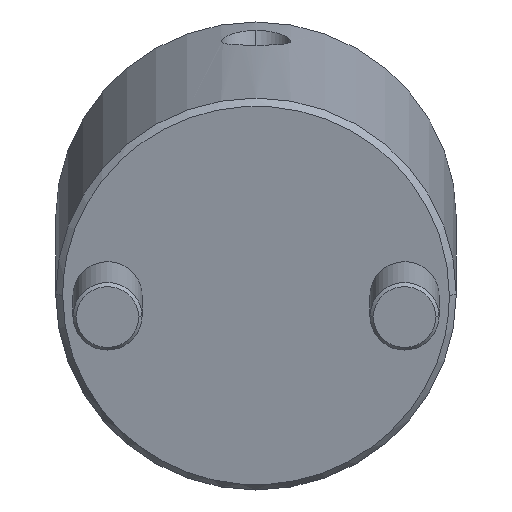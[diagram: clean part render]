
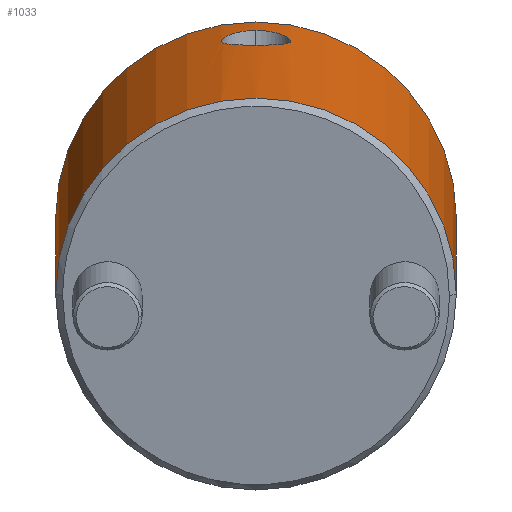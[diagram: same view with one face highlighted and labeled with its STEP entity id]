
A CAD part, front view. The second image highlights one B-rep face of the part: STEP entity #1033.
In plain terms, the highlighted cylindrical face has radius 29 mm (diameter 58 mm), a partial arc.
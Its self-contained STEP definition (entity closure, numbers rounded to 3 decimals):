
#772=CARTESIAN_POINT('Vertex',(0.,29.,1.)) ;
#775=CARTESIAN_POINT('Axis2P3D Location',(0.,0.,1.)) ;
#779=CARTESIAN_POINT('Vertex',(0.,-29.,1.)) ;
#931=CARTESIAN_POINT('Axis2P3D Location',(0.,0.,-2.75)) ;
#936=CARTESIAN_POINT('Line Origine',(0.,29.,-2.75)) ;
#940=CARTESIAN_POINT('Vertex',(0.,29.,54.)) ;
#943=CARTESIAN_POINT('Axis2P3D Location',(0.,0.,54.)) ;
#947=CARTESIAN_POINT('Vertex',(0.,-29.,54.)) ;
#950=CARTESIAN_POINT('Line Origine',(0.,-29.,-2.75)) ;
#962=CARTESIAN_POINT('Control Point',(29.,0.,48.127)) ;
#963=CARTESIAN_POINT('Control Point',(29.,0.424,48.127)) ;
#964=CARTESIAN_POINT('Control Point',(28.992,0.845,48.08)) ;
#965=CARTESIAN_POINT('Control Point',(28.977,1.265,47.984)) ;
#966=CARTESIAN_POINT('Control Point',(28.943,1.873,47.773)) ;
#967=CARTESIAN_POINT('Control Point',(28.898,2.443,47.461)) ;
#968=CARTESIAN_POINT('Control Point',(28.881,2.629,47.346)) ;
#969=CARTESIAN_POINT('Control Point',(28.847,2.99,47.095)) ;
#970=CARTESIAN_POINT('Control Point',(28.81,3.323,46.804)) ;
#971=CARTESIAN_POINT('Control Point',(28.791,3.482,46.649)) ;
#972=CARTESIAN_POINT('Control Point',(28.714,4.093,45.987)) ;
#973=CARTESIAN_POINT('Control Point',(28.642,4.556,45.204)) ;
#974=CARTESIAN_POINT('Control Point',(28.6,4.804,44.567)) ;
#975=CARTESIAN_POINT('Control Point',(28.557,5.048,43.461)) ;
#976=CARTESIAN_POINT('Control Point',(28.566,4.997,42.347)) ;
#977=CARTESIAN_POINT('Control Point',(28.578,4.929,41.907)) ;
#978=CARTESIAN_POINT('Control Point',(28.618,4.701,41.057)) ;
#979=CARTESIAN_POINT('Control Point',(28.681,4.297,40.277)) ;
#980=CARTESIAN_POINT('Control Point',(28.717,4.054,39.914)) ;
#981=CARTESIAN_POINT('Control Point',(28.774,3.632,39.412)) ;
#982=CARTESIAN_POINT('Control Point',(28.831,3.136,38.988)) ;
#983=CARTESIAN_POINT('Control Point',(28.849,2.962,38.856)) ;
#984=CARTESIAN_POINT('Control Point',(28.893,2.511,38.55)) ;
#985=CARTESIAN_POINT('Control Point',(28.932,2.021,38.307)) ;
#986=CARTESIAN_POINT('Control Point',(28.952,1.717,38.186)) ;
#987=CARTESIAN_POINT('Control Point',(28.979,1.192,38.026)) ;
#988=CARTESIAN_POINT('Control Point',(28.994,0.653,37.938)) ;
#989=CARTESIAN_POINT('Control Point',(28.998,0.437,37.915)) ;
#990=CARTESIAN_POINT('Control Point',(29.,0.219,37.903)) ;
#991=CARTESIAN_POINT('Control Point',(29.,0.,37.903)) ;
#992=CARTESIAN_POINT('Vertex',(29.,0.,48.127)) ;
#994=CARTESIAN_POINT('Vertex',(29.,0.,37.903)) ;
#998=CARTESIAN_POINT('Control Point',(29.,0.,37.903)) ;
#999=CARTESIAN_POINT('Control Point',(29.,-0.219,37.903)) ;
#1000=CARTESIAN_POINT('Control Point',(28.998,-0.438,37.915)) ;
#1001=CARTESIAN_POINT('Control Point',(28.994,-0.655,37.939)) ;
#1002=CARTESIAN_POINT('Control Point',(28.979,-1.195,38.027)) ;
#1003=CARTESIAN_POINT('Control Point',(28.952,-1.72,38.187)) ;
#1004=CARTESIAN_POINT('Control Point',(28.932,-2.024,38.308)) ;
#1005=CARTESIAN_POINT('Control Point',(28.893,-2.514,38.551)) ;
#1006=CARTESIAN_POINT('Control Point',(28.849,-2.965,38.858)) ;
#1007=CARTESIAN_POINT('Control Point',(28.83,-3.138,38.99)) ;
#1008=CARTESIAN_POINT('Control Point',(28.774,-3.634,39.414)) ;
#1009=CARTESIAN_POINT('Control Point',(28.717,-4.056,39.917)) ;
#1010=CARTESIAN_POINT('Control Point',(28.681,-4.298,40.28)) ;
#1011=CARTESIAN_POINT('Control Point',(28.617,-4.703,41.06)) ;
#1012=CARTESIAN_POINT('Control Point',(28.578,-4.93,41.91)) ;
#1013=CARTESIAN_POINT('Control Point',(28.566,-4.997,42.351)) ;
#1014=CARTESIAN_POINT('Control Point',(28.557,-5.048,43.464)) ;
#1015=CARTESIAN_POINT('Control Point',(28.6,-4.803,44.57)) ;
#1016=CARTESIAN_POINT('Control Point',(28.643,-4.555,45.207)) ;
#1017=CARTESIAN_POINT('Control Point',(28.714,-4.091,45.99)) ;
#1018=CARTESIAN_POINT('Control Point',(28.791,-3.479,46.652)) ;
#1019=CARTESIAN_POINT('Control Point',(28.81,-3.321,46.806)) ;
#1020=CARTESIAN_POINT('Control Point',(28.847,-2.987,47.096)) ;
#1021=CARTESIAN_POINT('Control Point',(28.882,-2.627,47.348)) ;
#1022=CARTESIAN_POINT('Control Point',(28.898,-2.44,47.463)) ;
#1023=CARTESIAN_POINT('Control Point',(28.943,-1.871,47.774)) ;
#1024=CARTESIAN_POINT('Control Point',(28.977,-1.263,47.985)) ;
#1025=CARTESIAN_POINT('Control Point',(28.992,-0.844,48.08)) ;
#1026=CARTESIAN_POINT('Control Point',(29.,-0.423,48.127)) ;
#1027=CARTESIAN_POINT('Control Point',(29.,0.,48.127)) ;
#776=DIRECTION('Axis2P3D Direction',(0.,0.,1.)) ;
#932=DIRECTION('Axis2P3D Direction',(0.,-0.,1.)) ;
#933=DIRECTION('Axis2P3D XDirection',(0.,-1.,0.)) ;
#937=DIRECTION('Vector Direction',(0.,0.,1.)) ;
#944=DIRECTION('Axis2P3D Direction',(0.,-0.,1.)) ;
#951=DIRECTION('Vector Direction',(0.,0.,1.)) ;
#777=AXIS2_PLACEMENT_3D('Circle Axis2P3D',#775,#776,$) ;
#934=AXIS2_PLACEMENT_3D('Cylinder Axis2P3D',#931,#932,#933) ;
#945=AXIS2_PLACEMENT_3D('Circle Axis2P3D',#943,#944,$) ;
#956=ORIENTED_EDGE('',*,*,#942,.F.) ;
#957=ORIENTED_EDGE('',*,*,#949,.T.) ;
#958=ORIENTED_EDGE('',*,*,#954,.T.) ;
#959=ORIENTED_EDGE('',*,*,#781,.F.) ;
#1030=ORIENTED_EDGE('',*,*,#996,.T.) ;
#1031=ORIENTED_EDGE('',*,*,#1028,.T.) ;
#1032=FACE_BOUND('',#1029,.T.) ;
#938=VECTOR('Line Direction',#937,1.) ;
#952=VECTOR('Line Direction',#951,1.) ;
#1033=ADVANCED_FACE('MANIFOLD_SOLID_BREP #1144',(#960,#1032),#935,.T.) ;
#961=B_SPLINE_CURVE_WITH_KNOTS('',5,(#962,#963,#964,#965,#966,#967,#968,#969,#970,#971,#972,#973,#974,#975,#976,#977,#978,#979,#980,#981,#982,#983,#984,#985,#986,#987,#988,#989,#990,#991),.UNSPECIFIED.,.F.,.U.,(6,3,3,3,3,3,3,3,3,6),(0.,3.069,4.614,6.171,10.888,13.996,17.094,18.642,20.97,22.519),.UNSPECIFIED.) ;
#997=B_SPLINE_CURVE_WITH_KNOTS('',5,(#998,#999,#1000,#1001,#1002,#1003,#1004,#1005,#1006,#1007,#1008,#1009,#1010,#1011,#1012,#1013,#1014,#1015,#1016,#1017,#1018,#1019,#1020,#1021,#1022,#1023,#1024,#1025,#1026,#1027),.UNSPECIFIED.,.F.,.U.,(6,3,3,3,3,3,3,3,3,6),(0.,1.554,3.881,5.43,8.528,11.636,16.353,17.909,19.454,22.519),.UNSPECIFIED.) ;
#778=CIRCLE('generated circle',#777,29.) ;
#946=CIRCLE('generated circle',#945,29.) ;
#935=CYLINDRICAL_SURFACE('generated cylinder',#934,29.) ;
#781=EDGE_CURVE('',#773,#780,#778,.F.) ;
#942=EDGE_CURVE('',#941,#773,#939,.F.) ;
#949=EDGE_CURVE('',#941,#948,#946,.F.) ;
#954=EDGE_CURVE('',#948,#780,#953,.F.) ;
#996=EDGE_CURVE('',#993,#995,#961,.T.) ;
#1028=EDGE_CURVE('',#995,#993,#997,.T.) ;
#955=EDGE_LOOP('',(#956,#957,#958,#959)) ;
#1029=EDGE_LOOP('',(#1030,#1031)) ;
#960=FACE_OUTER_BOUND('',#955,.T.) ;
#939=LINE('Line',#936,#938) ;
#953=LINE('Line',#950,#952) ;
#773=VERTEX_POINT('',#772) ;
#780=VERTEX_POINT('',#779) ;
#941=VERTEX_POINT('',#940) ;
#948=VERTEX_POINT('',#947) ;
#993=VERTEX_POINT('',#992) ;
#995=VERTEX_POINT('',#994) ;
